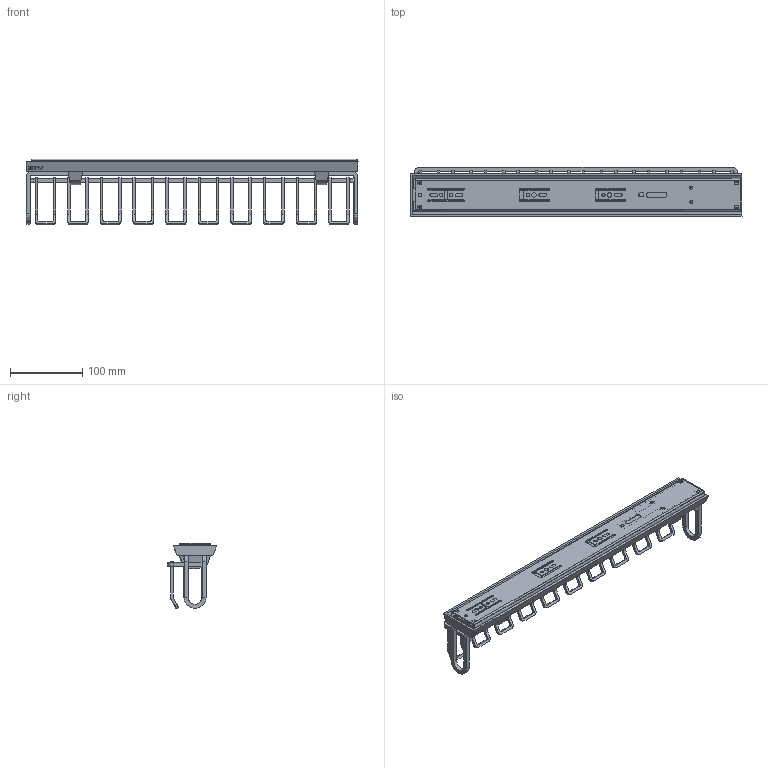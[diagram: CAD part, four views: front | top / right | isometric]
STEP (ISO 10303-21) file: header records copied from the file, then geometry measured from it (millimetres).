
FILE_DESCRIPTION(/* description */ (''),/* implementation_level */ '2;1');
FILE_NAME(/* name */ 'D:\$Workingspace\Designs\Meblowka\uproszczenia\garderoba smart\W-WKRP…-VE.stp',/* time_stamp */ '2019-01-02T09:07:17+01:00',/* author */ ('tomaszw'),/* organization */ (''),/* preprocessor_version */ 'ST-DEVELOPER v17',/* originating_system */ 'Autodesk Inventor 2019',/* authorisation */ '');
FILE_SCHEMA (('AUTOMOTIVE_DESIGN { 1 0 10303 214 3 1 1 }'));
Length unit declared in the file: millimetre
Products named in the file (11): złożenie z uchwyt na krawaty i p
aski 11_2017_upr; PK-L-H45-450; PK-L-H45_1-450; PK-L-H45_2-450; PK-L-H45_3-450; PK-L-H45_4; PK-L-H45_5; PPD_2; druciak na krawaty oraz paski_upr; SM 4x16; MD_1_02
Assembly tree (12 placements, depth 3):
  złożenie z uchwyt na krawaty i p
aski 11_2017_upr
    PK-L-H45-450
      PK-L-H45_1-450
      PK-L-H45_2-450
      PK-L-H45_3-450
      PK-L-H45_4
      PK-L-H45_5
    PPD_2
    MD_1_02  x2
    druciak na krawaty oraz paski_upr
    SM 4x16  x2
Bounding box: 458.03 x 67.97 x 90.39 mm (x, y, z)
Volume: 274875.5 mm3; surface area: 299234.8 mm2
Topology: 23 solids, 23 shells, 799 faces, 2232 edges, 1490 vertices
Faces by surface type: plane 513, cylinder 246, cone 28, bspline 12
Full cylindrical faces by diameter (mm): 4 x2, 4.2 x2, 4.3 x1, 4.5 x7, 6.2 x2, 7.2 x2, 8 x2, 8.3 x1
Entity records: 25398 total; most frequent: CARTESIAN_POINT 4723, ORIENTED_EDGE 4268, DIRECTION 4141, EDGE_CURVE 2134, LINE 1565, VECTOR 1565, VERTEX_POINT 1418, AXIS2_PLACEMENT_3D 1288
